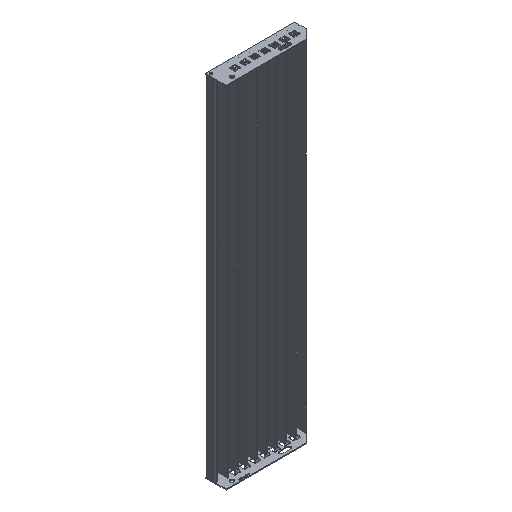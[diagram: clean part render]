
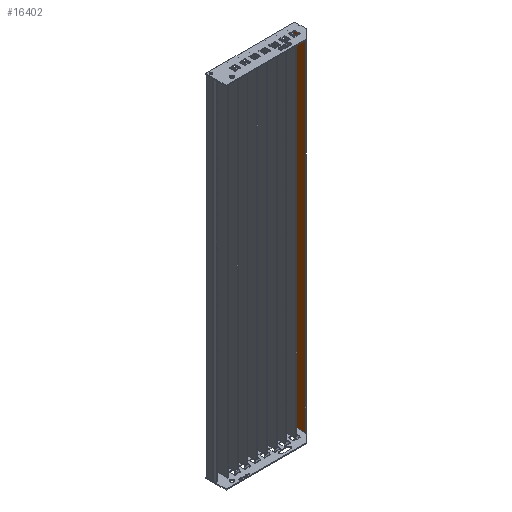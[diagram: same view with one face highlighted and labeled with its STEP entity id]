
A CAD part, isometric view. The second image highlights one B-rep face of the part: STEP entity #16402.
In plain terms, the highlighted planar face has unit normal (-1, 0, 0).
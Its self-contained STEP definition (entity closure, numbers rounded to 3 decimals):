
#2633=FACE_OUTER_BOUND('',#3960,.T.);
#3960=EDGE_LOOP('',(#14851,#14852,#14853,#14854));
#5434=LINE('',#32209,#6914);
#5435=LINE('',#32211,#6915);
#5436=LINE('',#32213,#6916);
#5437=LINE('',#32214,#6917);
#6914=VECTOR('',#22592,10.);
#6915=VECTOR('',#22593,10.);
#6916=VECTOR('',#22594,10.);
#6917=VECTOR('',#22595,10.);
#8423=VERTEX_POINT('',#32207);
#8424=VERTEX_POINT('',#32208);
#8425=VERTEX_POINT('',#32210);
#8426=VERTEX_POINT('',#32212);
#10567=EDGE_CURVE('',#8423,#8424,#5434,.T.);
#10568=EDGE_CURVE('',#8425,#8424,#5435,.T.);
#10569=EDGE_CURVE('',#8425,#8426,#5436,.T.);
#10570=EDGE_CURVE('',#8426,#8423,#5437,.T.);
#14851=ORIENTED_EDGE('',*,*,#10567,.T.);
#14852=ORIENTED_EDGE('',*,*,#10568,.F.);
#14853=ORIENTED_EDGE('',*,*,#10569,.T.);
#14854=ORIENTED_EDGE('',*,*,#10570,.T.);
#15361=PLANE('',#18085);
#16402=ADVANCED_FACE('',(#2633),#15361,.T.);
#18085=AXIS2_PLACEMENT_3D('',#32206,#22590,#22591);
#22590=DIRECTION('center_axis',(-1.,0.,0.));
#22591=DIRECTION('ref_axis',(0.,0.,1.));
#22592=DIRECTION('',(0.,0.,-1.));
#22593=DIRECTION('',(0.,1.,0.));
#22594=DIRECTION('',(0.,0.,1.));
#22595=DIRECTION('',(0.,1.,0.));
#32206=CARTESIAN_POINT('Origin',(-3.,0.,0.));
#32207=CARTESIAN_POINT('',(-3.,1194.,0.));
#32208=CARTESIAN_POINT('',(-3.,1194.,-40.));
#32209=CARTESIAN_POINT('',(-3.,1194.,-40.));
#32210=CARTESIAN_POINT('',(-3.,0.,-40.));
#32211=CARTESIAN_POINT('',(-3.,0.,-40.));
#32212=CARTESIAN_POINT('',(-3.,0.,0.));
#32213=CARTESIAN_POINT('',(-3.,0.,-40.));
#32214=CARTESIAN_POINT('',(-3.,0.,0.));
